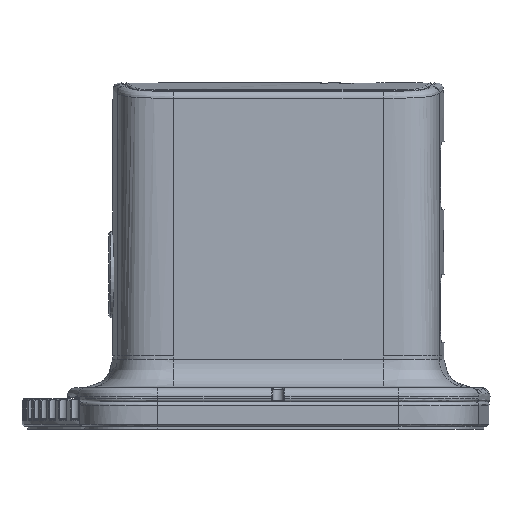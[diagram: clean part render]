
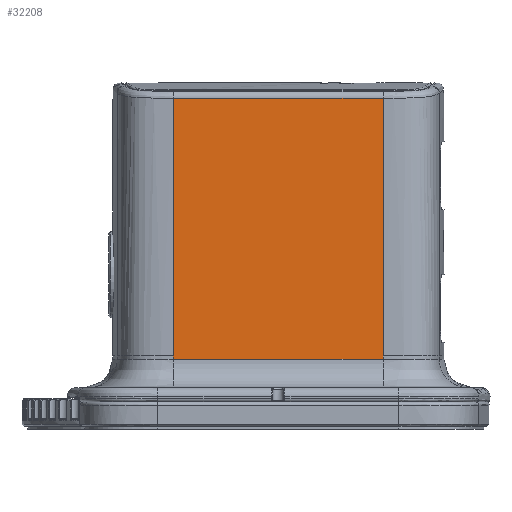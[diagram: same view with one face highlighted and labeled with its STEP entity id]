
A CAD part, left-side view. The second image highlights one B-rep face of the part: STEP entity #32208.
In plain terms, the highlighted planar face has unit normal (-1, 0, 0).
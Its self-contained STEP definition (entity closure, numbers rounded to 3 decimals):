
#1925 = VERTEX_POINT ( 'NONE', #27163 ) ;
#3911 = DIRECTION ( 'NONE',  ( 0., 0., 1. ) ) ;
#5438 = EDGE_CURVE ( 'NONE', #50964, #13033, #50870, .T. ) ;
#7279 = ORIENTED_EDGE ( 'NONE', *, *, #45113, .T. ) ;
#7335 = EDGE_CURVE ( 'NONE', #25284, #26772, #15211, .T. ) ;
#7797 = CARTESIAN_POINT ( 'NONE',  ( -18., -14.862, 9.05 ) ) ;
#8418 = ORIENTED_EDGE ( 'NONE', *, *, #7335, .T. ) ;
#8451 = LINE ( 'NONE', #20505, #27870 ) ;
#10861 = VECTOR ( 'NONE', #46775, 1000. ) ;
#12084 = CARTESIAN_POINT ( 'NONE',  ( -18., -14.862, 45.006 ) ) ;
#13033 = VERTEX_POINT ( 'NONE', #16779 ) ;
#14916 = VECTOR ( 'NONE', #31894, 1000. ) ;
#15143 = DIRECTION ( 'NONE',  ( 0., 0., -1. ) ) ;
#15211 = LINE ( 'NONE', #38870, #10861 ) ;
#16521 = VECTOR ( 'NONE', #3911, 1000. ) ;
#16779 = CARTESIAN_POINT ( 'NONE',  ( -18., -14.862, 8. ) ) ;
#18126 = DIRECTION ( 'NONE',  ( 0., 0., -1. ) ) ;
#20395 = EDGE_CURVE ( 'NONE', #26772, #13033, #37715, .T. ) ;
#20505 = CARTESIAN_POINT ( 'NONE',  ( -18., 14.862, 45.006 ) ) ;
#21129 = EDGE_CURVE ( 'NONE', #37132, #1925, #8451, .T. ) ;
#21269 = VECTOR ( 'NONE', #45104, 1000. ) ;
#21451 = CARTESIAN_POINT ( 'NONE',  ( -18., 14.862, 8. ) ) ;
#23855 = CARTESIAN_POINT ( 'NONE',  ( -18., -14.862, 28.769 ) ) ;
#24509 = ORIENTED_EDGE ( 'NONE', *, *, #5438, .F. ) ;
#25284 = VERTEX_POINT ( 'NONE', #32732 ) ;
#25789 = AXIS2_PLACEMENT_3D ( 'NONE', #49410, #45233, #18126 ) ;
#26772 = VERTEX_POINT ( 'NONE', #21451 ) ;
#27163 = CARTESIAN_POINT ( 'NONE',  ( -18., 14.862, 45.006 ) ) ;
#27177 = CARTESIAN_POINT ( 'NONE',  ( -18., 14.862, 4. ) ) ;
#27870 = VECTOR ( 'NONE', #28664, 1000. ) ;
#28664 = DIRECTION ( 'NONE',  ( 0., 1., 0. ) ) ;
#29501 = CARTESIAN_POINT ( 'NONE',  ( -18., -14.862, 8.5 ) ) ;
#31677 = EDGE_CURVE ( 'NONE', #25284, #1925, #51599, .T. ) ;
#31894 = DIRECTION ( 'NONE',  ( 0., 0., 1. ) ) ;
#32208 = ADVANCED_FACE ( 'NONE', ( #44963 ), #33899, .F. ) ;
#32732 = CARTESIAN_POINT ( 'NONE',  ( -18., 14.862, 8.5 ) ) ;
#33776 = CARTESIAN_POINT ( 'NONE',  ( -18., -14.862, 8. ) ) ;
#33899 = PLANE ( 'NONE',  #25789 ) ;
#35424 = LINE ( 'NONE', #23855, #16521 ) ;
#37132 = VERTEX_POINT ( 'NONE', #12084 ) ;
#37715 = LINE ( 'NONE', #33776, #21269 ) ;
#38870 = CARTESIAN_POINT ( 'NONE',  ( -18., 14.862, 9.05 ) ) ;
#39127 = ORIENTED_EDGE ( 'NONE', *, *, #31677, .F. ) ;
#40082 = EDGE_LOOP ( 'NONE', ( #8418, #41385, #24509, #7279, #44648, #39127 ) ) ;
#41385 = ORIENTED_EDGE ( 'NONE', *, *, #20395, .T. ) ;
#44648 = ORIENTED_EDGE ( 'NONE', *, *, #21129, .T. ) ;
#44963 = FACE_OUTER_BOUND ( 'NONE', #40082, .T. ) ;
#45104 = DIRECTION ( 'NONE',  ( 0., -1., 0. ) ) ;
#45113 = EDGE_CURVE ( 'NONE', #50964, #37132, #35424, .T. ) ;
#45233 = DIRECTION ( 'NONE',  ( 1., 0., 0. ) ) ;
#46775 = DIRECTION ( 'NONE',  ( 0., 0., -1. ) ) ;
#49410 = CARTESIAN_POINT ( 'NONE',  ( -18., -14.862, 4. ) ) ;
#50870 = LINE ( 'NONE', #7797, #51857 ) ;
#50964 = VERTEX_POINT ( 'NONE', #29501 ) ;
#51599 = LINE ( 'NONE', #27177, #14916 ) ;
#51857 = VECTOR ( 'NONE', #15143, 1000. ) ;
